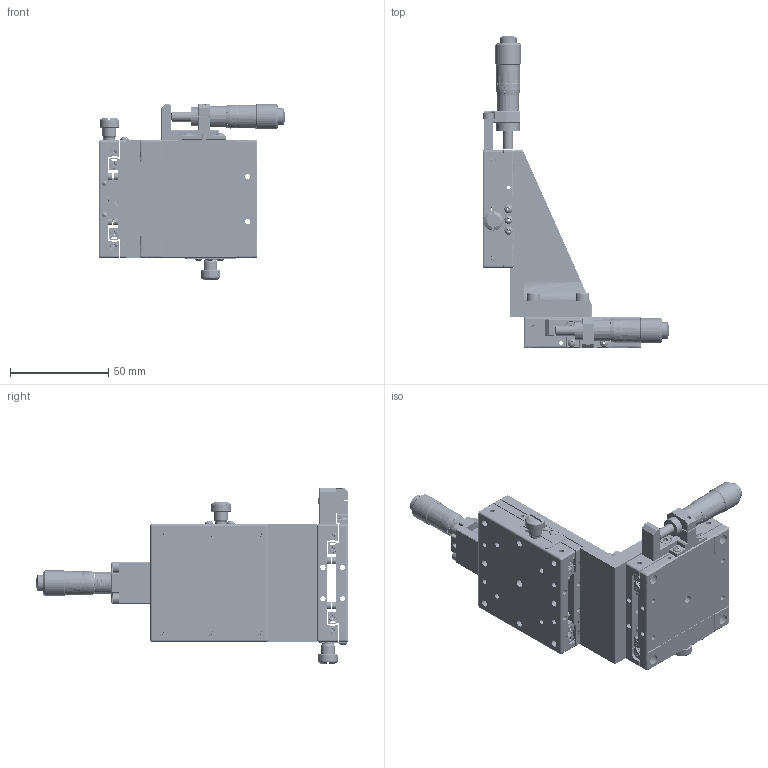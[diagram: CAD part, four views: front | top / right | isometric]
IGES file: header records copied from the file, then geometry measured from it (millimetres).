
Start section: SolidWorks IGES file using analytic representation for surfaces
Bounding box: 95.25 x 159.5 x 89.8 mm (x, y, z)
Surface area: 70749 mm2 (no closed solid volume)
Topology: 0 solids, 0 shells, 1452 faces, 29902 edges, 29832 vertices
Faces by surface type: bspline 831, revolution 621
